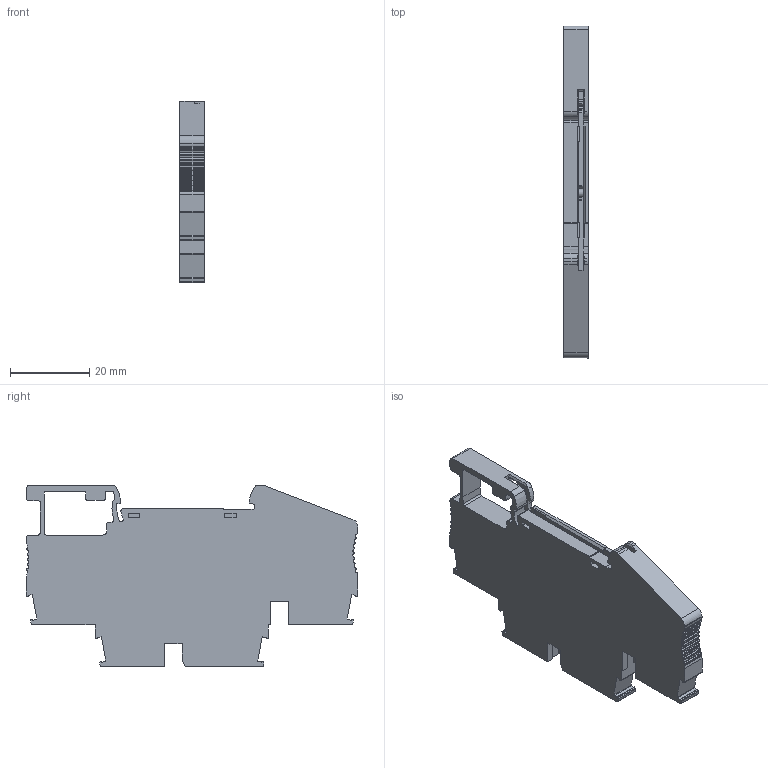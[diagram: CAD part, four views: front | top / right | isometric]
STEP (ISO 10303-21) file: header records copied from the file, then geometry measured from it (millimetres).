
FILE_DESCRIPTION(/* description */ (''),/* implementation_level */ '2;1');
FILE_NAME(/* name */ 'UPT-4-2L ASSY.stp',/* time_stamp */ '2024-04-26T15:24:40+08:00',/* author */ (''),/* organization */ (''),/* preprocessor_version */ 'ST-DEVELOPER v16.7',/* originating_system */ 'SIEMENS PLM Software NX 12.0',/* authorisation */ '');
FILE_SCHEMA (('AUTOMOTIVE_DESIGN { 1 0 10303 214 3 1 1 1 }'));
Length unit declared in the file: millimetre
Products named in the file (1): Admi0EB4BAB8ixt9
Bounding box: 6.2 x 83.65 x 45.85 mm (x, y, z)
Volume: 15321.1 mm3; surface area: 10225.5 mm2
Topology: 1 solids, 2 shells, 988 faces, 2802 edges, 1822 vertices
Faces by surface type: plane 560, cylinder 348, cone 40, torus 32, bspline 8
Entity records: 33631 total; most frequent: CARTESIAN_POINT 7800, ORIENTED_EDGE 5556, DIRECTION 5303, EDGE_CURVE 2778, LINE 1873, VECTOR 1873, VERTEX_POINT 1814, AXIS2_PLACEMENT_3D 1715
